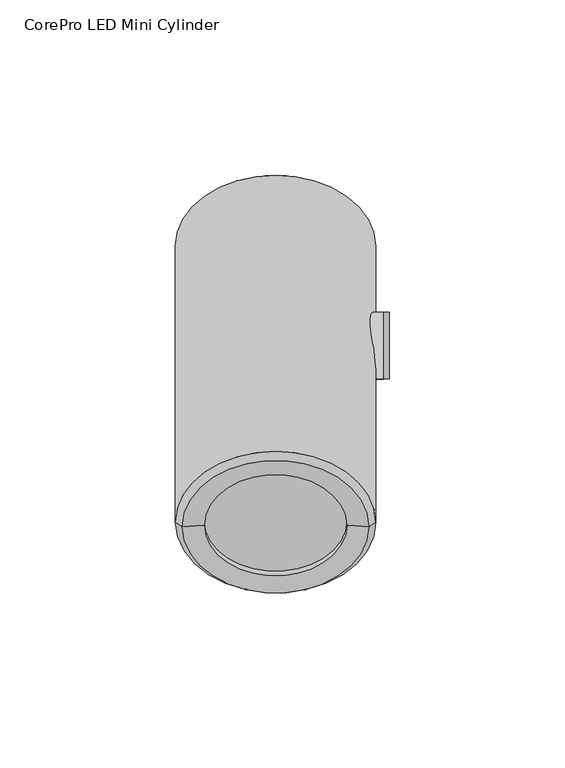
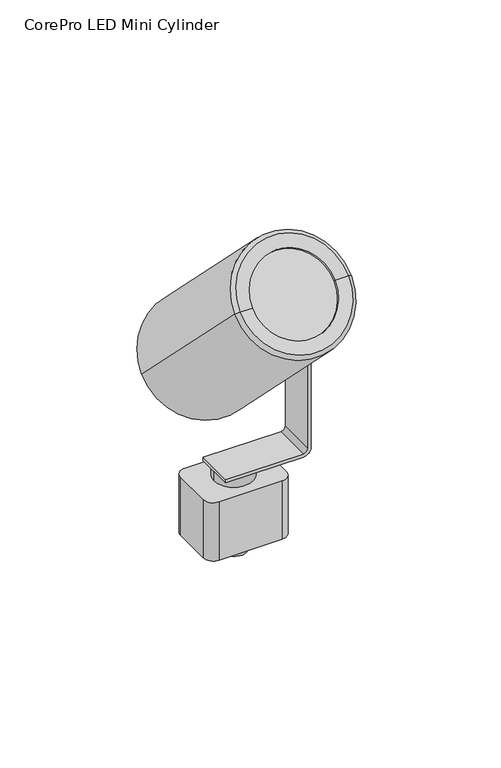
"""IFC4 building model written with IfcOpenShell, lengths in millimetres: light fixture geometry, Lighting-Track-Philips_Lightolier-CorePro_LED_Mini_Cylinder : CorePro LED Mini Cylinder."""

from ifc_helpers import new_model, si_unit, point, frame, frame_2d, origin, origin_with_axes, place, context, project, spatial, polyline, circle_curve, trimmed, segment, composite_curve, outline, extrude, source, transform, mapped, element, save
from ifc_brep_helpers import plane_surface, cylinder_surface, revolved_surface, advanced_brep


def corepro_led_mini_cylinder_a80fb04c(model_context):
    return source(origin(), model_context, "Body", "SolidModel", [
        extrude(outline(composite_curve([segment(trimmed(circle_curve(frame_2d((0.0, -26.9875)), 26.9875), [point((0.0, -53.975))], [point((0.0, 0.0))], False, "CARTESIAN"), True, "CONTINUOUS"), segment(trimmed(circle_curve(frame_2d((0.0, -26.9875)), 26.9875), [point((0.0, 0.0))], [point((0.0, -53.975))], False, "CARTESIAN"), True, "CONTINUOUS")], self_intersect=False)), frame((26.9875, -23.1452931, 151.7327931), z_axis=(0.0, -0.7071067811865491, 0.707106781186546), x_axis=(0.0, -0.707106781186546, -0.7071067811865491)), (0.0, 0.0, 1.0), 1.5853915),
        advanced_brep(
        [(28.575, 53.712818, 74.874682), (-28.575, 53.712818, 74.874682), (-27.3403712, 54.5858324, 74.0016676), (27.3403712, 54.5858324, 74.0016676), (28.575, -24.9175917, 153.5050917), (-28.575, -24.9175917, 153.5050917), (26.7098206, -26.2364727, 154.8239727), (-26.7098206, -26.2364727, 154.8239727), (0.0, -17.2562166, 145.8437166), (-20.3839843, -17.2562166, 145.8437166), (20.3839843, -17.2562166, 145.8437166), (0.0, 54.5858324, 74.0016676), (20.3839843, -25.8451322, 154.4326322), (-20.3839843, -25.8451322, 154.4326322)],
        [
            (0, 1, circle_curve(frame((0.0, 53.712818, 74.874682), z_axis=(0.0, 0.7071067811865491, -0.707106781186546), x_axis=(-1.0, 0.0, 0.0)), 28.575)),
            (1, 2),
            (2, 3, circle_curve(frame((0.0, 54.5858324, 74.0016676), z_axis=(0.0, -0.7071067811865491, 0.707106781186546), x_axis=(-1.0, 0.0, 0.0)), 27.3403712)),
            (3, 0),
            (1, 0, circle_curve(frame((0.0, 53.712818, 74.874682), z_axis=(0.0, 0.7071067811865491, -0.707106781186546), x_axis=(-1.0, 0.0, 0.0)), 28.575)),
            (3, 2, circle_curve(frame((0.0, 54.5858324, 74.0016676), z_axis=(0.0, -0.7071067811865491, 0.707106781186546), x_axis=(-1.0, 0.0, 0.0)), 27.3403712)),
            (4, 5, circle_curve(frame((0.0, -24.9175917, 153.5050917), z_axis=(0.0, 0.7071067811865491, -0.707106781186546), x_axis=(-1.0, 0.0, 0.0)), 28.575)),
            (5, 1),
            (0, 4),
            (5, 4, circle_curve(frame((0.0, -24.9175917, 153.5050917), z_axis=(0.0, 0.7071067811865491, -0.707106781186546), x_axis=(-1.0, 0.0, 0.0)), 28.575)),
            (6, 7, circle_curve(frame((0.0, -26.2364727, 154.8239727), z_axis=(0.0, 0.7071067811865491, -0.707106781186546), x_axis=(-1.0, 0.0, 0.0)), 26.7098206)),
            (7, 5),
            (4, 6),
            (7, 6, circle_curve(frame((0.0, -26.2364727, 154.8239727), z_axis=(0.0, 0.7071067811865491, -0.707106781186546), x_axis=(-1.0, 0.0, 0.0)), 26.7098206)),
            (8, 9),
            (9, 10, circle_curve(frame((0.0, -17.2562166, 145.8437166), z_axis=(0.0, -0.7071067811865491, 0.707106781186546), x_axis=(-1.0, 0.0, 0.0)), 20.3839843)),
            (10, 8),
            (10, 9, circle_curve(frame((0.0, -17.2562166, 145.8437166), z_axis=(0.0, -0.7071067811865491, 0.707106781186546), x_axis=(-1.0, 0.0, 0.0)), 20.3839843)),
            (2, 11),
            (11, 3),
            (12, 13, circle_curve(frame((0.0, -25.8451322, 154.4326322), z_axis=(0.0, 0.7071067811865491, -0.707106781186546), x_axis=(-1.0, 0.0, 0.0)), 20.3839843)),
            (13, 7),
            (6, 12),
            (13, 12, circle_curve(frame((0.0, -25.8451322, 154.4326322), z_axis=(0.0, 0.7071067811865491, -0.707106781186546), x_axis=(-1.0, 0.0, 0.0)), 20.3839843)),
            (9, 13),
            (12, 10),
        ],
        [
            revolved_surface(polyline([(-27.3403712, 54.5858324, 74.0016676), (-28.575, 53.712818, 74.874682)]), (0.0, -26.2364727, 154.8239727), (0.0, -0.7071067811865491, 0.707106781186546)),
            cylinder_surface(frame((0.0, -26.2364727, 154.8239727), z_axis=(0.0, -0.7071067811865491, 0.707106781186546), x_axis=(-1.0, 0.0, 0.0)), 28.575),
            revolved_surface(polyline([(-28.575, -24.9175917, 153.5050917), (-26.7098206, -26.2364727, 154.8239727)]), (0.0, -26.2364727, 154.8239727), (0.0, -0.7071067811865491, 0.707106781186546)),
            plane_surface(frame((0.0, -17.2562166, 145.8437166), z_axis=(0.0, -0.7071067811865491, 0.707106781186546), x_axis=(-1.0, 0.0, 0.0))),
            plane_surface(frame((0.0, 54.5858324, 74.0016676), z_axis=(0.0, 0.7071067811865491, -0.707106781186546), x_axis=(-1.0, 0.0, 0.0))),
            revolved_surface(polyline([(-26.7098206, -26.2364727, 154.8239727), (-20.3839843, -25.8451322, 154.4326322)]), (0.0, -26.2364727, 154.8239727), (0.0, -0.7071067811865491, 0.707106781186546)),
            revolved_surface(polyline([(-20.3839843, -25.84513219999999, 154.4326322), (-20.3839843, -17.256216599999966, 145.84371660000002)]), (0.0, -26.2364727, 154.8239727), (0.0, -0.7071067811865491, 0.707106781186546)),
        ],
        [
            (0, [[1, 2, 3, 4]]),
            (0, [[5, -4, 6, -2]]),
            (1, [[7, 8, -1, 9]]),
            (1, [[10, -9, -5, -8]]),
            (2, [[11, 12, -7, 13]]),
            (2, [[14, -13, -10, -12]]),
            (3, [[15, 16, 17]]),
            (3, [[-17, 18, -15]]),
            (4, [[-3, 19, 20]]),
            (4, [[-6, -20, -19]]),
            (5, [[21, 22, -11, 23]]),
            (5, [[24, -23, -14, -22]]),
            (6, [[-16, 25, -21, 26]]),
            (6, [[-18, -26, -24, -25]]),
        ],
    ),
        advanced_brep(
        [(28.6357268, 15.875, 36.490579), (-9.4143115, 15.875, 36.490579), (-9.4143115, 15.875, 34.903079), (28.6357268, 15.875, 34.903079), (32.4392004, 15.875, 38.7065526), (32.4392004, 15.875, 103.1875), (30.8517004, 15.875, 103.1875), (30.8517004, 15.875, 38.7065526), (28.6357268, 34.925, 36.490579), (30.8517004, 34.925, 38.7065526), (30.8517004, 34.925, 103.1875), (32.4392004, 34.925, 103.1875), (32.4392004, 34.925, 38.7065526), (28.6357268, 34.925, 34.903079), (-9.4143115, 34.925, 34.903079), (-9.4143115, 34.925, 36.490579)],
        [
            (0, 1),
            (1, 2),
            (2, 3),
            (3, 4, circle_curve(frame((28.6357268, 15.875, 38.7065526), z_axis=(0.0, -1.0, 0.0), x_axis=(1.0, 0.0, 0.0)), 3.8034736)),
            (4, 5),
            (5, 6),
            (6, 7),
            (7, 0, circle_curve(frame((28.6357268, 15.875, 38.7065526), z_axis=(0.0, 1.0, 0.0), x_axis=(1.0, 0.0, 0.0)), 2.2159736)),
            (8, 9, circle_curve(frame((28.6357268, 34.925, 38.7065526), z_axis=(0.0, -1.0, 0.0), x_axis=(1.0, 0.0, 0.0)), 2.2159736)),
            (9, 10),
            (10, 11),
            (11, 12),
            (12, 13, circle_curve(frame((28.6357268, 34.925, 38.7065526), z_axis=(0.0, 1.0, 0.0), x_axis=(1.0, 0.0, 0.0)), 3.8034736)),
            (13, 14),
            (14, 15),
            (15, 8),
            (0, 8),
            (15, 1),
            (14, 2),
            (13, 3),
            (4, 12),
            (11, 5, circle_curve(frame((32.4392004, 25.4, 103.1875), z_axis=(1.0, 0.0, 0.0), x_axis=(0.0, 0.0, 1.0)), 9.525)),
            (9, 7),
            (6, 10, circle_curve(frame((30.8517004, 25.4, 103.1875), z_axis=(-1.0, 0.0, 0.0), x_axis=(0.0, 0.0, 1.0)), 9.525)),
        ],
        [
            plane_surface(frame((-9.4143115, 15.875, 36.490579), z_axis=(0.0, -1.0, 0.0), x_axis=(-1.0, 0.0, 0.0))),
            plane_surface(frame((-9.4143115, 34.925, 36.490579), z_axis=(0.0, 1.0, 0.0), x_axis=(1.0, 0.0, 0.0))),
            plane_surface(frame((28.6357268, 15.875, 36.490579), z_axis=(0.0, 0.0, 1.0), x_axis=(0.0, 1.0, 0.0))),
            plane_surface(frame((-9.4143115, 15.875, 36.490579), z_axis=(-1.0, 0.0, 0.0), x_axis=(0.0, 1.0, 0.0))),
            plane_surface(frame((-9.4143115, 15.875, 34.903079), z_axis=(0.0, 0.0, -1.0), x_axis=(0.0, 1.0, 0.0))),
            plane_surface(frame((32.4392004, 15.875, 38.7065526), z_axis=(1.0, 0.0, 0.0), x_axis=(0.0, 1.0, 0.0))),
            plane_surface(frame((30.8517004, 15.875, 113.6925923), z_axis=(-1.0, 0.0, 0.0), x_axis=(0.0, 1.0, 0.0))),
            cylinder_surface(frame((28.6357268, 34.925, 38.7065526), z_axis=(0.0, -1.0, 0.0), x_axis=(1.0, 0.0, 0.0)), 3.8034736),
            revolved_surface(polyline([(30.8517004, 34.925, 38.7065526), (30.8517004, 15.875, 38.7065526)]), (28.6357268, 34.925, 38.7065526), (0.0, 1.0, 0.0)),
            cylinder_surface(frame((13.7009915, 25.4, 103.1875), z_axis=(-1.0, 0.0, 0.0), x_axis=(0.0, 0.0, 1.0)), 9.525),
        ],
        [
            (0, [[1, 2, 3, 4, 5, 6, 7, 8]]),
            (1, [[9, 10, 11, 12, 13, 14, 15, 16]]),
            (2, [[-1, 17, -16, 18]]),
            (3, [[-2, -18, -15, 19]]),
            (4, [[-3, -19, -14, 20]]),
            (5, [[21, -12, 22, -5]]),
            (6, [[23, -7, 24, -10]]),
            (7, [[-4, -20, -13, -21]]),
            (8, [[-8, -23, -9, -17]]),
            (9, [[-6, -22, -11, -24]]),
        ],
    ),
        extrude(outline(composite_curve([segment(trimmed(circle_curve(frame_2d((0.0, 25.4)), 9.525), [point((-9.525, 25.4))], [point((9.525, 25.4))], False, "CARTESIAN"), True, "CONTINUOUS"), segment(trimmed(circle_curve(frame_2d((0.0, 25.4)), 9.525), [point((9.525, 25.4))], [point((-9.525, 25.4))], False, "CARTESIAN"), True, "CONTINUOUS")], self_intersect=False)), frame((0.0, 0.0, 30.1625), z_axis=(0.0, 0.0, 1.0), x_axis=(1.0, 0.0, 0.0)), (0.0, 0.0, 1.0), 4.740579),
        extrude(outline(composite_curve([segment(trimmed(circle_curve(frame_2d((25.4, 103.1875)), 9.525), [point((15.875, 103.1875))], [point((34.925, 103.1875))], False, "CARTESIAN"), True, "CONTINUOUS"), segment(trimmed(circle_curve(frame_2d((25.4, 103.1875)), 9.525), [point((34.925, 103.1875))], [point((15.875, 103.1875))], False, "CARTESIAN"), True, "CONTINUOUS")], self_intersect=False)), frame((13.7009915, 0.0, 0.0), z_axis=(1.0, 0.0, 0.0), x_axis=(0.0, 1.0, 0.0)), (0.0, 0.0, 1.0), 17.1507089),
        extrude(outline(composite_curve([segment(trimmed(circle_curve(frame_2d((0.0, 25.4)), 6.35), [point((-6.35, 25.4))], [point((6.35, 25.4))], False, "CARTESIAN"), True, "CONTINUOUS"), segment(trimmed(circle_curve(frame_2d((0.0, 25.4)), 6.35), [point((6.35, 25.4))], [point((-6.35, 25.4))], False, "CARTESIAN"), True, "CONTINUOUS")], self_intersect=False)), frame((0.0, 0.0, -7.8870636), z_axis=(0.0, 0.0, 1.0), x_axis=(1.0, 0.0, 0.0)), (0.0, 0.0, 1.0), 7.8870636),
        extrude(outline(composite_curve([segment(trimmed(circle_curve(frame_2d((15.4970185, 34.925)), 4.8909456), [point((15.4970185, 39.8159456))], [point((20.3879641, 34.925))], False, "CARTESIAN"), True, "CONTINUOUS"), segment(polyline([(20.3879641, 34.925), (20.3879641, 15.875)]), True, "CONTINUOUS"), segment(trimmed(circle_curve(frame_2d((15.4970185, 15.875)), 4.8909456), [point((20.3879641, 15.875))], [point((15.4970185, 10.9840544))], False, "CARTESIAN"), True, "CONTINUOUS"), segment(polyline([(15.4970185, 10.9840544), (-15.4970185, 10.9840544)]), True, "CONTINUOUS"), segment(trimmed(circle_curve(frame_2d((-15.4970185, 15.875)), 4.8909456), [point((-15.4970185, 10.9840544))], [point((-20.3879641, 15.875))], False, "CARTESIAN"), True, "CONTINUOUS"), segment(polyline([(-20.3879641, 15.875), (-20.3879641, 34.925)]), True, "CONTINUOUS"), segment(trimmed(circle_curve(frame_2d((-15.4970185, 34.925)), 4.8909456), [point((-20.3879641, 34.925))], [point((-15.4970185, 39.8159456))], False, "CARTESIAN"), True, "CONTINUOUS"), segment(polyline([(-15.4970185, 39.8159456), (15.4970185, 39.8159456)]), True, "CONTINUOUS")], self_intersect=False)), origin_with_axes(), (0.0, 0.0, 1.0), 30.1625),
    ])


if __name__ == "__main__":
    model = new_model("IFC4")
    model_context = context("Model", 3, world=origin())
    ifc_project = project(units=[si_unit("LENGTHUNIT", "METRE", prefix="MILLI")], contexts=[model_context])
    site = spatial("IfcSite", under=ifc_project)
    building = spatial("IfcBuilding", under=site)
    placement = place(None, origin())
    corepro_led_mini_cylinder_shape = corepro_led_mini_cylinder_a80fb04c(model_context)
    element("IfcLightFixture", 1, ObjectType="Lighting-Track-Philips_Lightolier-CorePro_LED_Mini_Cylinder : CorePro LED Mini Cylinder", at=placement, inside=building, context=model_context, shape_type="MappedRepresentation", body=[
        mapped(corepro_led_mini_cylinder_shape, transform((0.0, 0.0, 0.0), x_axis=(1.0, 0.0, 0.0), y_axis=(0.0, 1.0, 0.0), z_axis=(0.0, 0.0, 1.0))),
    ])
    save(model, "model.ifc")
